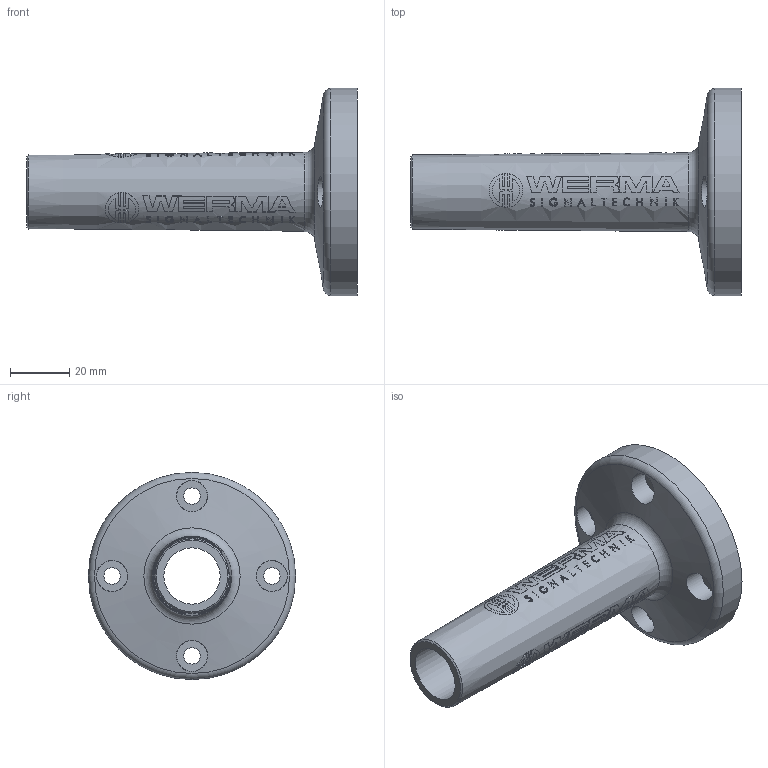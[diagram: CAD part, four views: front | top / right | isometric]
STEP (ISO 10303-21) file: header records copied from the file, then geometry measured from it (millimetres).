
FILE_DESCRIPTION(/* description */ ('Customer part'),/* implementation_level */ '2;1');
FILE_NAME(/* name */ 'C:\CEWorkDir\0050569C0EFC1ED8A298BBD97EB680C0\in\800000010403_PRT_000.step',/* time_stamp */ '2018-07-16T18:31:03+02:00',/* author */ ('IMPORT'),/* organization */ ('WERMA Signaltechnik GmbH+Co.KG'),/* preprocessor_version */ 'ST-DEVELOPER v17',/* originating_system */ 'Autodesk Inventor 2018',/* authorisation */ 'public');
FILE_SCHEMA (('AUTOMOTIVE_DESIGN { 1 0 10303 214 3 1 1 }'));
Length unit declared in the file: millimetre
Products named in the file (1): 800000010403
Bounding box: 111.5 x 70 x 70 mm (x, y, z)
Volume: 65081.8 mm3; surface area: 25131.9 mm2
Topology: 1 solids, 1 shells, 739 faces, 1985 edges, 1328 vertices
Faces by surface type: plane 530, cylinder 132, cone 75, torus 2
Full cylindrical faces by diameter (mm): 5.5 x4, 6 x4, 10.5 x4, 19 x1, 40 x1, 70 x1
Entity records: 27466 total; most frequent: CARTESIAN_POINT 7932, ORIENTED_EDGE 3970, DIRECTION 3889, EDGE_CURVE 1985, AXIS2_PLACEMENT_3D 1419, VERTEX_POINT 1328, LINE 1051, VECTOR 1051
